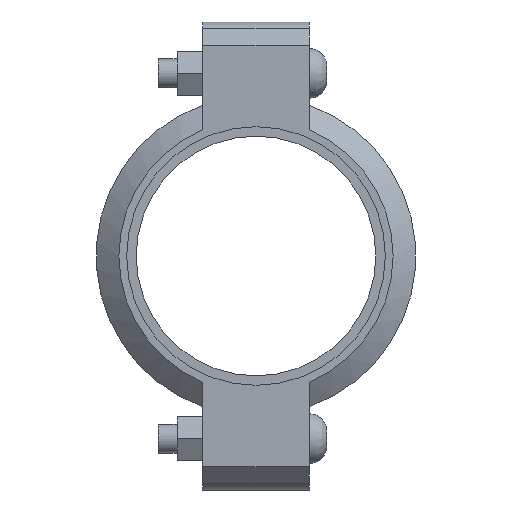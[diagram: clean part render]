
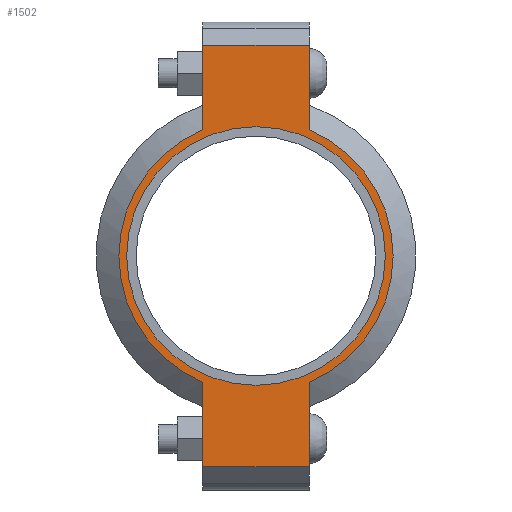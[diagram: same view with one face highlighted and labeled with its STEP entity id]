
A CAD part, left-side view. The second image highlights one B-rep face of the part: STEP entity #1502.
In plain terms, the highlighted planar face has unit normal (-1, 0, 0) as drawn and (0, 0, 1) by its records, which use the part's own axes.
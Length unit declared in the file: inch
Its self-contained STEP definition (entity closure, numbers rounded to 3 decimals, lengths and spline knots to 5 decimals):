
#126=LINE('',#2621,#219);
#134=LINE('',#2657,#227);
#141=LINE('',#2678,#234);
#150=LINE('',#2710,#243);
#151=LINE('',#2714,#244);
#152=LINE('',#2716,#245);
#219=VECTOR('',#2145,0.3937);
#227=VECTOR('',#2161,0.3937);
#234=VECTOR('',#2180,0.3937);
#243=VECTOR('',#2205,0.3937);
#244=VECTOR('',#2210,0.3937);
#245=VECTOR('',#2211,0.3937);
#301=FACE_BOUND('',#479,.T.);
#373=FACE_OUTER_BOUND('',#478,.T.);
#478=EDGE_LOOP('',(#1243,#1244,#1245,#1246,#1247,#1248,#1249,#1250));
#479=EDGE_LOOP('',(#1251));
#551=CIRCLE('',#1721,2.7815);
#577=CIRCLE('',#1780,2.95);
#578=CIRCLE('',#1781,2.95);
#643=VERTEX_POINT('',#2437);
#686=VERTEX_POINT('',#2618);
#687=VERTEX_POINT('',#2620);
#698=VERTEX_POINT('',#2652);
#699=VERTEX_POINT('',#2656);
#706=VERTEX_POINT('',#2675);
#707=VERTEX_POINT('',#2677);
#717=VERTEX_POINT('',#2713);
#718=VERTEX_POINT('',#2715);
#799=EDGE_CURVE('',#643,#643,#551,.T.);
#860=EDGE_CURVE('',#687,#686,#126,.T.);
#874=EDGE_CURVE('',#699,#698,#134,.T.);
#884=EDGE_CURVE('',#707,#706,#141,.T.);
#899=EDGE_CURVE('',#699,#686,#150,.T.);
#900=EDGE_CURVE('',#698,#707,#577,.T.);
#901=EDGE_CURVE('',#717,#706,#151,.T.);
#902=EDGE_CURVE('',#717,#718,#152,.T.);
#903=EDGE_CURVE('',#718,#687,#578,.T.);
#1243=ORIENTED_EDGE('',*,*,#899,.F.);
#1244=ORIENTED_EDGE('',*,*,#874,.T.);
#1245=ORIENTED_EDGE('',*,*,#900,.T.);
#1246=ORIENTED_EDGE('',*,*,#884,.T.);
#1247=ORIENTED_EDGE('',*,*,#901,.F.);
#1248=ORIENTED_EDGE('',*,*,#902,.T.);
#1249=ORIENTED_EDGE('',*,*,#903,.T.);
#1250=ORIENTED_EDGE('',*,*,#860,.T.);
#1251=ORIENTED_EDGE('',*,*,#799,.T.);
#1344=PLANE('',#1779);
#1502=ADVANCED_FACE('',(#373,#301),#1344,.T.);
#1721=AXIS2_PLACEMENT_3D('',#2439,#2021,#2022);
#1779=AXIS2_PLACEMENT_3D('',#2711,#2206,#2207);
#1780=AXIS2_PLACEMENT_3D('',#2712,#2208,#2209);
#1781=AXIS2_PLACEMENT_3D('',#2717,#2212,#2213);
#2021=DIRECTION('center_axis',(0.,0.,-1.));
#2022=DIRECTION('ref_axis',(-1.,0.,0.));
#2145=DIRECTION('',(-1.,0.,0.));
#2161=DIRECTION('',(1.,0.,0.));
#2180=DIRECTION('',(1.,0.,0.));
#2205=DIRECTION('',(0.,1.,0.));
#2206=DIRECTION('center_axis',(0.,0.,1.));
#2207=DIRECTION('ref_axis',(1.,0.,0.));
#2208=DIRECTION('center_axis',(0.,0.,1.));
#2209=DIRECTION('ref_axis',(-1.,0.,0.));
#2210=DIRECTION('',(0.,-1.,0.));
#2211=DIRECTION('',(-1.,0.,0.));
#2212=DIRECTION('center_axis',(0.,0.,1.));
#2213=DIRECTION('ref_axis',(-1.,0.,0.));
#2437=CARTESIAN_POINT('',(2.7815,0.,1.065));
#2439=CARTESIAN_POINT('Origin',(0.,0.,1.065));
#2618=CARTESIAN_POINT('',(-4.535,1.15,1.065));
#2620=CARTESIAN_POINT('',(-2.71662,1.15,1.065));
#2621=CARTESIAN_POINT('',(-5.035,1.15,1.065));
#2652=CARTESIAN_POINT('',(-2.71662,-1.15,1.065));
#2656=CARTESIAN_POINT('',(-4.535,-1.15,1.065));
#2657=CARTESIAN_POINT('',(5.035,-1.15,1.065));
#2675=CARTESIAN_POINT('',(4.535,-1.15,1.065));
#2677=CARTESIAN_POINT('',(2.71662,-1.15,1.065));
#2678=CARTESIAN_POINT('',(5.035,-1.15,1.065));
#2710=CARTESIAN_POINT('',(-4.535,0.575,1.065));
#2711=CARTESIAN_POINT('Origin',(0.,0.,1.065));
#2712=CARTESIAN_POINT('Origin',(0.,0.,1.065));
#2713=CARTESIAN_POINT('',(4.535,1.15,1.065));
#2714=CARTESIAN_POINT('',(4.535,-0.575,1.065));
#2715=CARTESIAN_POINT('',(2.71662,1.15,1.065));
#2716=CARTESIAN_POINT('',(-5.035,1.15,1.065));
#2717=CARTESIAN_POINT('Origin',(0.,0.,1.065));
